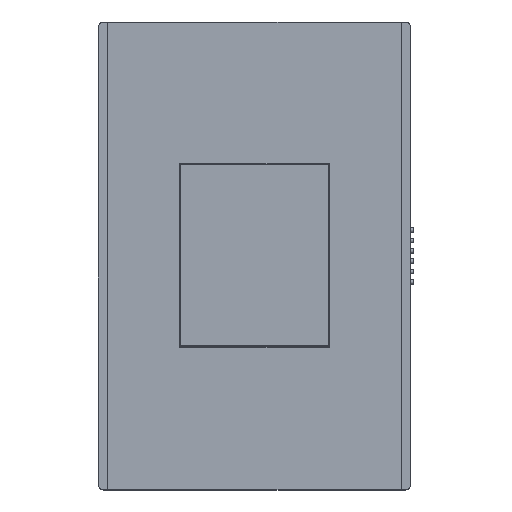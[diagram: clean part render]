
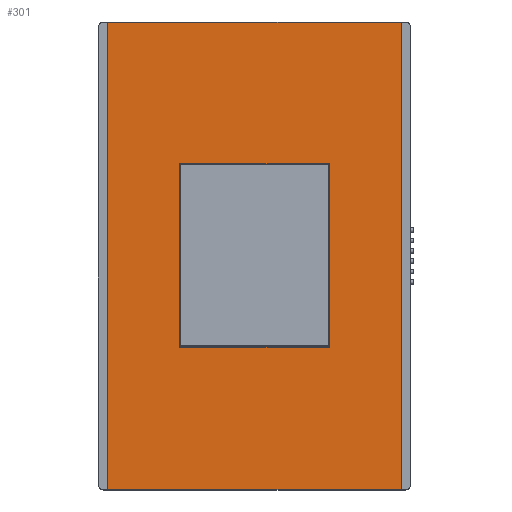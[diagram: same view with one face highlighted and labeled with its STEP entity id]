
A CAD part, top view. The second image highlights one B-rep face of the part: STEP entity #301.
In plain terms, the highlighted planar face has unit normal (0, 0, 1).
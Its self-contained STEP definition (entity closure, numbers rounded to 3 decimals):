
#99=CARTESIAN_POINT('Vertex',(282.5,-450.,30.)) ;
#151=CARTESIAN_POINT('Vertex',(282.5,450.,30.)) ;
#171=CARTESIAN_POINT('Line Origine',(282.5,0.,30.)) ;
#234=CARTESIAN_POINT('Vertex',(-282.5,450.,30.)) ;
#237=CARTESIAN_POINT('Line Origine',(0.,450.,30.)) ;
#263=CARTESIAN_POINT('Vertex',(-282.5,-450.,30.)) ;
#273=CARTESIAN_POINT('Line Origine',(0.,-450.,30.)) ;
#285=CARTESIAN_POINT('Axis2P3D Location',(0.,0.,30.)) ;
#290=CARTESIAN_POINT('Line Origine',(-282.5,0.,30.)) ;
#172=DIRECTION('Vector Direction',(0.,-1.,0.)) ;
#238=DIRECTION('Vector Direction',(1.,0.,0.)) ;
#274=DIRECTION('Vector Direction',(-1.,0.,0.)) ;
#286=DIRECTION('Axis2P3D Direction',(0.,0.,1.)) ;
#287=DIRECTION('Axis2P3D XDirection',(1.,0.,0.)) ;
#291=DIRECTION('Vector Direction',(0.,1.,0.)) ;
#288=AXIS2_PLACEMENT_3D('Plane Axis2P3D',#285,#286,#287) ;
#296=ORIENTED_EDGE('',*,*,#277,.T.) ;
#297=ORIENTED_EDGE('',*,*,#175,.F.) ;
#298=ORIENTED_EDGE('',*,*,#241,.T.) ;
#299=ORIENTED_EDGE('',*,*,#294,.T.) ;
#173=VECTOR('Line Direction',#172,1.) ;
#239=VECTOR('Line Direction',#238,1.) ;
#275=VECTOR('Line Direction',#274,1.) ;
#292=VECTOR('Line Direction',#291,1.) ;
#301=ADVANCED_FACE('Involucro',(#300),#289,.T.) ;
#175=EDGE_CURVE('',#152,#100,#174,.T.) ;
#241=EDGE_CURVE('',#152,#235,#240,.F.) ;
#277=EDGE_CURVE('',#264,#100,#276,.F.) ;
#294=EDGE_CURVE('',#235,#264,#293,.F.) ;
#295=EDGE_LOOP('',(#296,#297,#298,#299)) ;
#300=FACE_OUTER_BOUND('',#295,.T.) ;
#174=LINE('Line',#171,#173) ;
#240=LINE('Line',#237,#239) ;
#276=LINE('Line',#273,#275) ;
#293=LINE('Line',#290,#292) ;
#289=PLANE('',#288) ;
#100=VERTEX_POINT('',#99) ;
#152=VERTEX_POINT('',#151) ;
#235=VERTEX_POINT('',#234) ;
#264=VERTEX_POINT('',#263) ;
